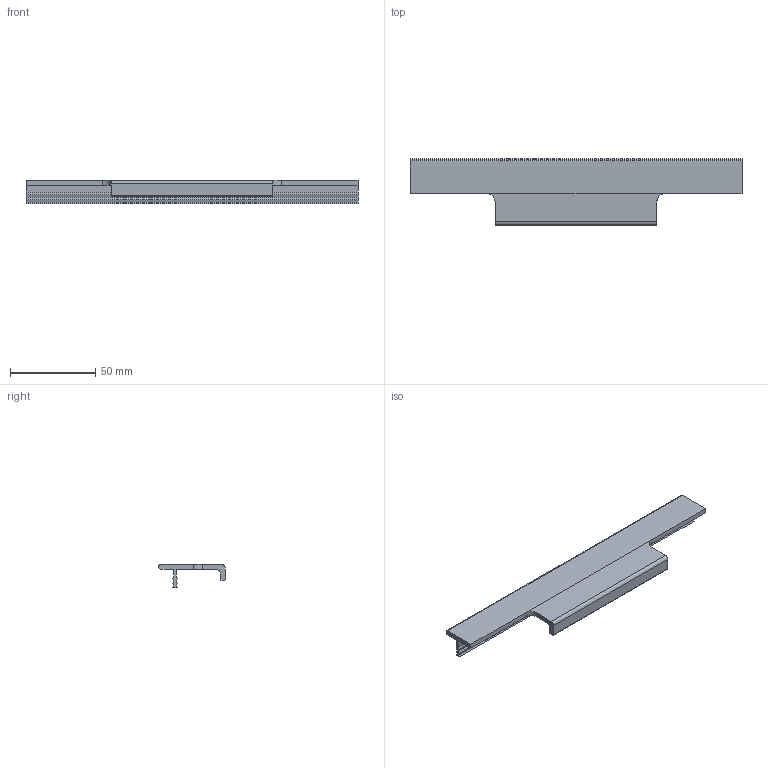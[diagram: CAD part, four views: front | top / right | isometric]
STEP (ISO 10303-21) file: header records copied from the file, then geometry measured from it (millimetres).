
FILE_DESCRIPTION( ( 'STEP AP214' ), '1' );
FILE_NAME( 'C:/Users/KOSH/Desktop/Same as task/Prodecor/9247830.stp', '2021-06-23T11:38:47', ( '' ), ( '' ), ' ', 'PARTsolutions', ' ' );
FILE_SCHEMA( ( 'AUTOMOTIVE_DESIGN { 1 0 10303 214 1 1 1 1 }' ) );
Length unit declared in the file: millimetre
Products named in the file (1): _9247830
Bounding box: 195 x 39 x 14 mm (x, y, z)
Volume: 23028.1 mm3; surface area: 18423.4 mm2
Topology: 1 solids, 1 shells, 40 faces, 112 edges, 74 vertices
Faces by surface type: plane 30, cylinder 10
Entity records: 1616 total; most frequent: CARTESIAN_POINT 227, ORIENTED_EDGE 224, DIRECTION 214, EDGE_CURVE 112, LINE 92, VECTOR 92, VERTEX_POINT 74, AXIS2_PLACEMENT_3D 61
